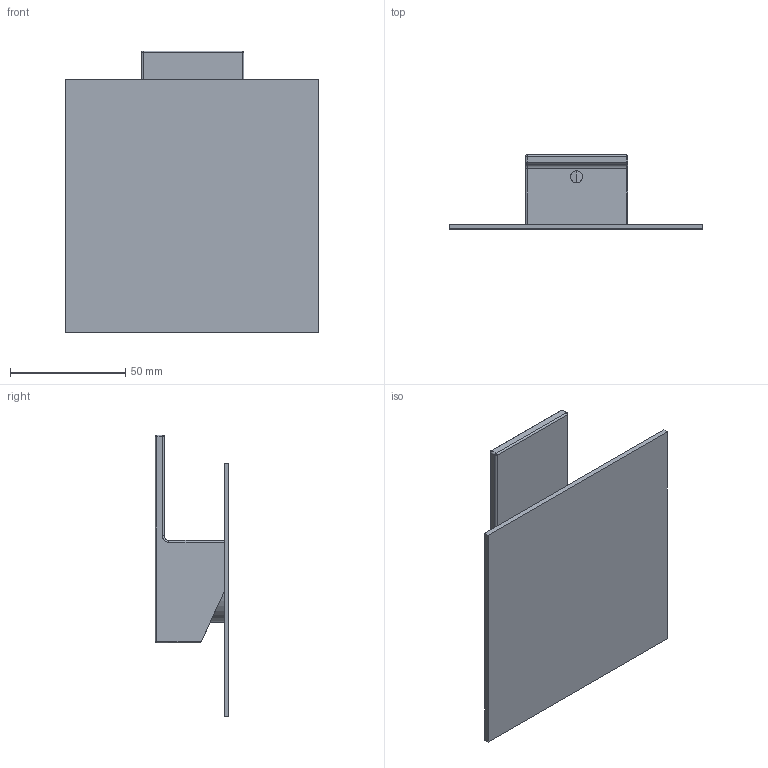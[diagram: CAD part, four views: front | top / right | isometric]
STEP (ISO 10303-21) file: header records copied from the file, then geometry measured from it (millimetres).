
FILE_DESCRIPTION (( 'STEP AP214' ), '1' );
FILE_NAME ('58201110 x architetti.STEP', '2025-01-24T16:20:51', ( '' ), ( '' ), 'SwSTEP 2.0', 'SolidWorks 2020', '' );
FILE_SCHEMA (( 'AUTOMOTIVE_DESIGN' ));
Length unit declared in the file: millimetre
Products named in the file (1): 58201110 x architetti
Bounding box: 110 x 32.12 x 122.37 mm (x, y, z)
Volume: 60974.4 mm3; surface area: 42906.8 mm2
Topology: 1 solids, 1 shells, 74 faces, 219 edges, 139 vertices
Faces by surface type: cylinder 30, plane 29, bspline 15
Entity records: 4148 total; most frequent: CARTESIAN_POINT 1556, ORIENTED_EDGE 418, DIRECTION 293, EDGE_CURVE 209, VERTEX_POINT 139, LINE 103, VECTOR 103, AXIS2_PLACEMENT_3D 95
